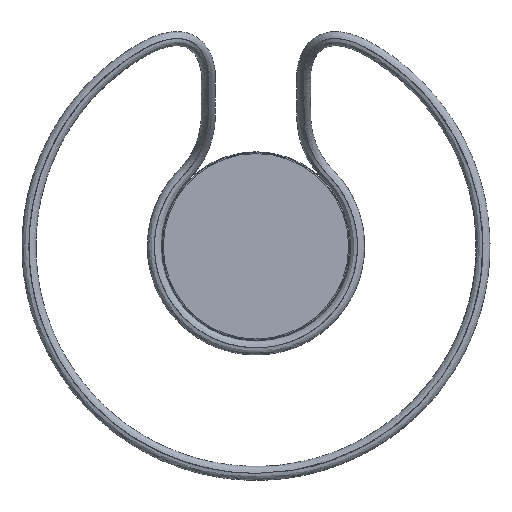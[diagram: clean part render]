
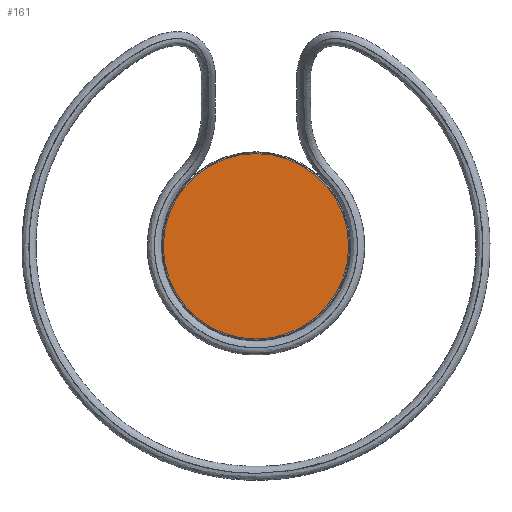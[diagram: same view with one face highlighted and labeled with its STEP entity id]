
A CAD part, front view. The second image highlights one B-rep face of the part: STEP entity #161.
In plain terms, the highlighted planar face has unit normal (0, -1, 0).
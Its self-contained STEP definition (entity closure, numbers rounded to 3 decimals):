
#124=PLANE('',#328);
#161=ADVANCED_FACE('',(#179),#124,.F.);
#179=FACE_OUTER_BOUND('',#189,.T.);
#189=EDGE_LOOP('',(#229,#230));
#229=ORIENTED_EDGE('',*,*,#289,.T.);
#230=ORIENTED_EDGE('',*,*,#275,.T.);
#257=VERTEX_POINT('',#383);
#258=VERTEX_POINT('',#384);
#275=EDGE_CURVE('',#257,#258,#299,.T.);
#289=EDGE_CURVE('',#258,#257,#309,.T.);
#299=CIRCLE('',#312,103.);
#309=CIRCLE('',#327,103.);
#312=AXIS2_PLACEMENT_3D('',#382,#335,#336);
#327=AXIS2_PLACEMENT_3D('',#411,#369,#370);
#328=AXIS2_PLACEMENT_3D('',#412,#371,#372);
#335=DIRECTION('',(0.,-1.,0.));
#336=DIRECTION('',(0.,0.,1.));
#369=DIRECTION('',(0.,-1.,0.));
#370=DIRECTION('',(0.,0.,1.));
#371=DIRECTION('',(0.,1.,0.));
#372=DIRECTION('',(0.,0.,-1.));
#382=CARTESIAN_POINT('',(750.,0.,0.));
#383=CARTESIAN_POINT('',(750.,0.,-103.));
#384=CARTESIAN_POINT('',(750.,0.,103.));
#411=CARTESIAN_POINT('',(750.,0.,0.));
#412=CARTESIAN_POINT('',(750.,0.,0.));
